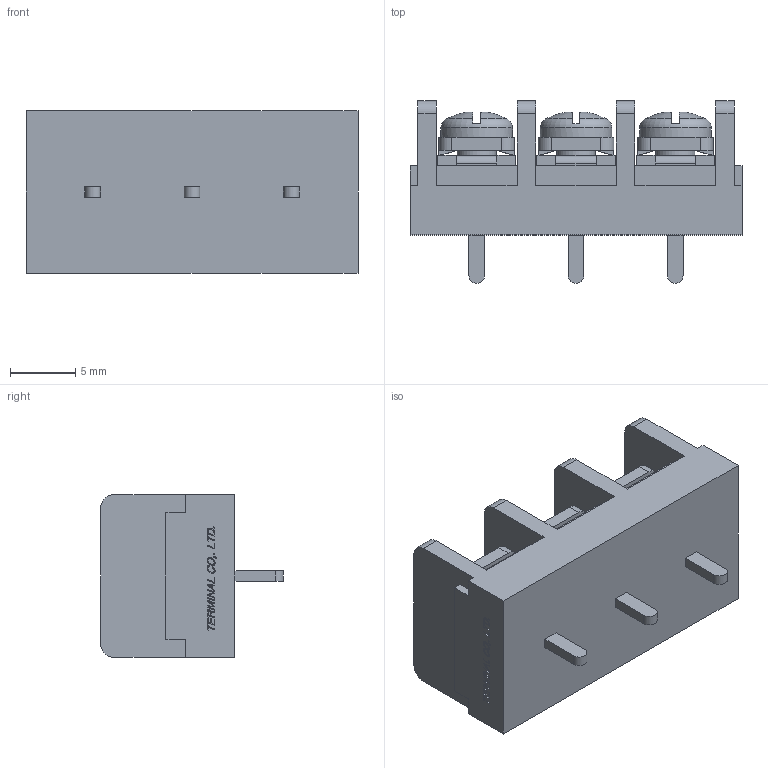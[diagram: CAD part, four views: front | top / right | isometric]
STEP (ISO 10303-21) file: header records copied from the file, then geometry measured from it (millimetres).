
FILE_DESCRIPTION(/* description */ ('Alibre Inc.'),/* implementation_level */ '2;1');
FILE_NAME(/* name */ 'export0',/* time_stamp */ '2015-10-26T16:45:09+09:00',/* author */ (''),/* organization */ (''),/* preprocessor_version */ 'ST-DEVELOPER v14',/* originating_system */ 'Alibre',/* authorisation */ '');
FILE_SCHEMA (('CONFIG_CONTROL_DESIGN'));
Length unit declared in the file: centimetre
Products named in the file (1): ID_1
Bounding box: 25.48 x 14 x 12.5 mm (x, y, z)
Volume: 2316.2 mm3; surface area: 2203.7 mm2
Topology: 1 solids, 1 shells, 674 faces, 1830 edges, 1210 vertices
Faces by surface type: plane 511, bspline 104, cylinder 35, cone 12, torus 6, sphere 6
Full cylindrical faces by diameter (mm): 3 x3, 5.5 x3
Entity records: 20357 total; most frequent: CARTESIAN_POINT 4739, ORIENTED_EDGE 3624, DIRECTION 2282, EDGE_CURVE 1812, VECTOR 1354, LINE 1354, VERTEX_POINT 1204, EDGE_LOOP 738
